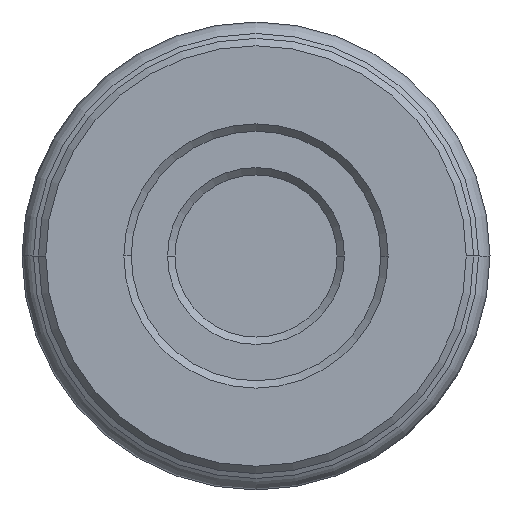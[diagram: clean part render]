
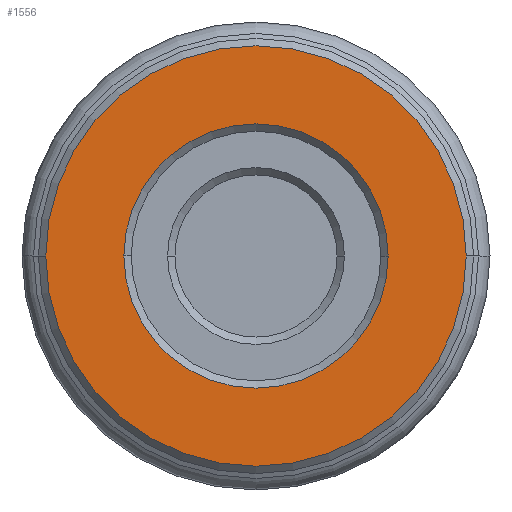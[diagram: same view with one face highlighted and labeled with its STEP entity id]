
A CAD part, front view. The second image highlights one B-rep face of the part: STEP entity #1556.
In plain terms, the highlighted planar face has unit normal (0, -1, 0).
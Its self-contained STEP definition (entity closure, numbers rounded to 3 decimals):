
#40 = FACE_OUTER_BOUND ( 'NONE', #3900, .T. ) ;
#95 = EDGE_CURVE ( 'NONE', #1581, #3130, #1632, .T. ) ;
#216 = ORIENTED_EDGE ( 'NONE', *, *, #95, .T. ) ;
#318 = CARTESIAN_POINT ( 'NONE',  ( 14.491, -60.325, 0. ) ) ;
#402 = CARTESIAN_POINT ( 'NONE',  ( 0., -60.325, 0. ) ) ;
#473 = DIRECTION ( 'NONE',  ( 1., 0., 0. ) ) ;
#602 = VERTEX_POINT ( 'NONE', #318 ) ;
#723 = DIRECTION ( 'NONE',  ( 1., 0., 0. ) ) ;
#779 = DIRECTION ( 'NONE',  ( 1., 0., 0. ) ) ;
#996 = AXIS2_PLACEMENT_3D ( 'NONE', #4716, #3867, #5003 ) ;
#1217 = FACE_BOUND ( 'NONE', #1900, .T. ) ;
#1240 = CARTESIAN_POINT ( 'NONE',  ( -14.999, -60.325, 0. ) ) ;
#1428 = ORIENTED_EDGE ( 'NONE', *, *, #2557, .T. ) ;
#1498 = CARTESIAN_POINT ( 'NONE',  ( 0., -60.325, 0. ) ) ;
#1534 = PLANE ( 'NONE',  #2148 ) ;
#1550 = CARTESIAN_POINT ( 'NONE',  ( -14.491, -60.325, 0. ) ) ;
#1556 = ADVANCED_FACE ( 'Defeatured_0_10', ( #1217, #40 ), #1534, .T. ) ;
#1581 = VERTEX_POINT ( 'NONE', #2016 ) ;
#1632 = CIRCLE ( 'NONE', #4314, 9.106 ) ;
#1764 = DIRECTION ( 'NONE',  ( 1., 0., 0. ) ) ;
#1830 = EDGE_CURVE ( 'NONE', #602, #2349, #2892, .T. ) ;
#1900 = EDGE_LOOP ( 'NONE', ( #1428, #216 ) ) ;
#1974 = DIRECTION ( 'NONE',  ( 0., 1., 0. ) ) ;
#2016 = CARTESIAN_POINT ( 'NONE',  ( -9.106, -60.325, 0. ) ) ;
#2148 = AXIS2_PLACEMENT_3D ( 'NONE', #1240, #2419, #473 ) ;
#2247 = DIRECTION ( 'NONE',  ( 0., 1., 0. ) ) ;
#2349 = VERTEX_POINT ( 'NONE', #1550 ) ;
#2419 = DIRECTION ( 'NONE',  ( 0., -1., 0. ) ) ;
#2444 = ORIENTED_EDGE ( 'NONE', *, *, #4242, .T. ) ;
#2557 = EDGE_CURVE ( 'NONE', #3130, #1581, #3047, .T. ) ;
#2892 = CIRCLE ( 'NONE', #996, 14.491 ) ;
#3047 = CIRCLE ( 'NONE', #3849, 9.106 ) ;
#3130 = VERTEX_POINT ( 'NONE', #4082 ) ;
#3132 = DIRECTION ( 'NONE',  ( 0., -1., 0. ) ) ;
#3545 = ORIENTED_EDGE ( 'NONE', *, *, #1830, .T. ) ;
#3849 = AXIS2_PLACEMENT_3D ( 'NONE', #402, #1974, #723 ) ;
#3867 = DIRECTION ( 'NONE',  ( 0., -1., 0. ) ) ;
#3900 = EDGE_LOOP ( 'NONE', ( #2444, #3545 ) ) ;
#4082 = CARTESIAN_POINT ( 'NONE',  ( 9.106, -60.325, 0. ) ) ;
#4160 = AXIS2_PLACEMENT_3D ( 'NONE', #1498, #3132, #779 ) ;
#4242 = EDGE_CURVE ( 'NONE', #2349, #602, #4315, .T. ) ;
#4314 = AXIS2_PLACEMENT_3D ( 'NONE', #4516, #2247, #1764 ) ;
#4315 = CIRCLE ( 'NONE', #4160, 14.491 ) ;
#4516 = CARTESIAN_POINT ( 'NONE',  ( 0., -60.325, 0. ) ) ;
#4716 = CARTESIAN_POINT ( 'NONE',  ( 0., -60.325, 0. ) ) ;
#5003 = DIRECTION ( 'NONE',  ( 1., 0., 0. ) ) ;
